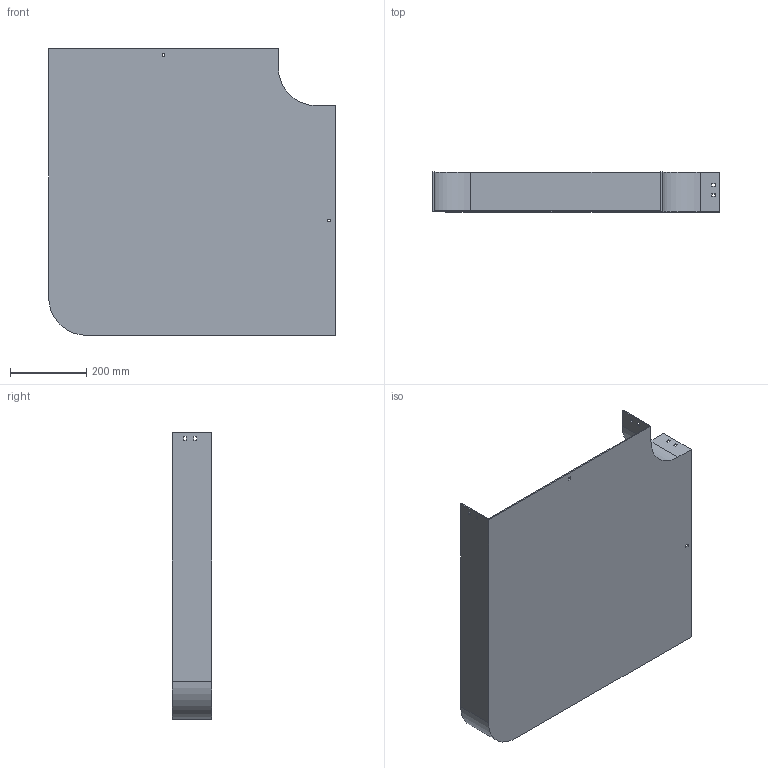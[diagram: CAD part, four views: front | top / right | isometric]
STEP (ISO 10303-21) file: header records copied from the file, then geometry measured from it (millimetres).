
FILE_DESCRIPTION (( 'STEP AP214' ), '1' );
FILE_NAME ('10B1D600.step', '2025-02-21T09:39:50', ( '' ), ( '' ), 'SwSTEP 2.0', 'SolidWorks 2023', '' );
FILE_SCHEMA (( 'AUTOMOTIVE_DESIGN' ));
Length unit declared in the file: millimetre
Products named in the file (1): 10B1D600
Bounding box: 754 x 104 x 754 mm (x, y, z)
Volume: 2514456 mm3; surface area: 1449663.6 mm2
Topology: 1 solids, 1 shells, 58 faces, 168 edges, 112 vertices
Faces by surface type: plane 54, cylinder 4
Entity records: 1943 total; most frequent: CARTESIAN_POINT 339, ORIENTED_EDGE 336, DIRECTION 294, EDGE_CURVE 168, LINE 160, VECTOR 160, VERTEX_POINT 112, EDGE_LOOP 78
